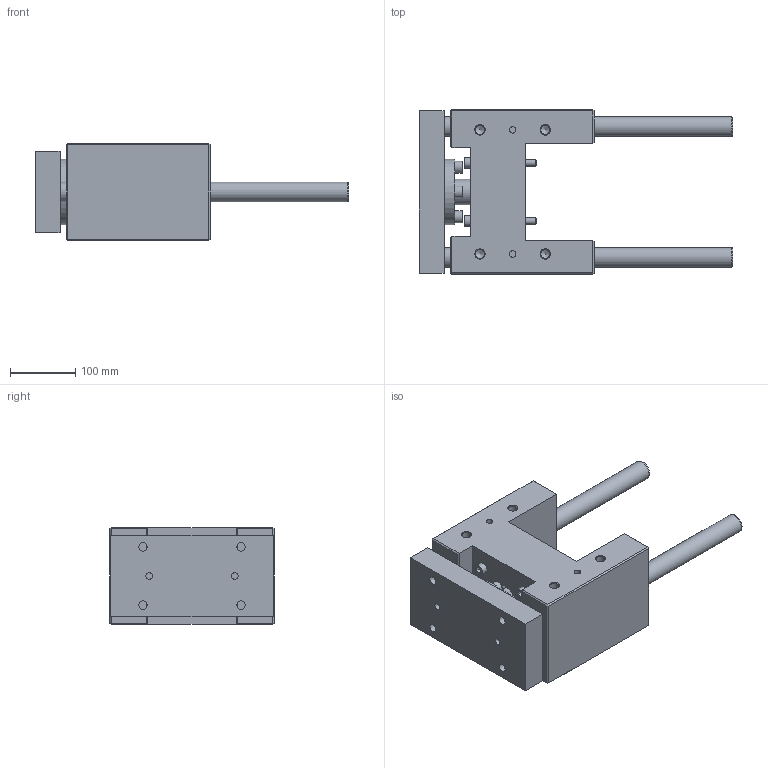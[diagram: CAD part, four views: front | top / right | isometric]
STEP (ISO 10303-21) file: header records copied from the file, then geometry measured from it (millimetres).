
FILE_DESCRIPTION( ( 'STEP AP214' ), '1' );
FILE_NAME( 'U:/Etudes/Top Solid/BIBLIO 3D AVM/TOP/PNEUMATIQUE/GUIDAGES/Type 32 (en H)/R_Renforcée/329R3230.step', '2005-05-27T09:24:49', ( ' ' ), ( ' ' ), 'XStep 1.0', ' ', ' ' );
FILE_SCHEMA( ( 'automotive_design' ) );
Length unit declared in the file: metre
Products named in the file (2): 1; 2
Bounding box: 480 x 252 x 148 mm (x, y, z)
Volume: 6601837.2 mm3; surface area: 544536.6 mm2
Topology: 2 solids, 7 shells, 239 faces, 527 edges, 341 vertices
Faces by surface type: plane 149, cylinder 69, cone 21
Full cylindrical faces by diameter (mm): 10 x12, 10.106 x4, 11 x4, 12 x8, 13 x8, 13.835 x8, 16 x4, 18 x4, 18.376 x2, 20 x4, 30 x4, 39 x1, 42 x1, 55 x1, 57 x1, 60 x1, 65 x1, 100 x1
Entity records: 7933 total; most frequent: CARTESIAN_POINT 1201, DIRECTION 1000, ORIENTED_EDGE 786, EDGE_CURVE 393, EDGE_LOOP 392, AXIS2_PLACEMENT_3D 374, FACE_OUTER_BOUND 308, VERTEX_POINT 303
